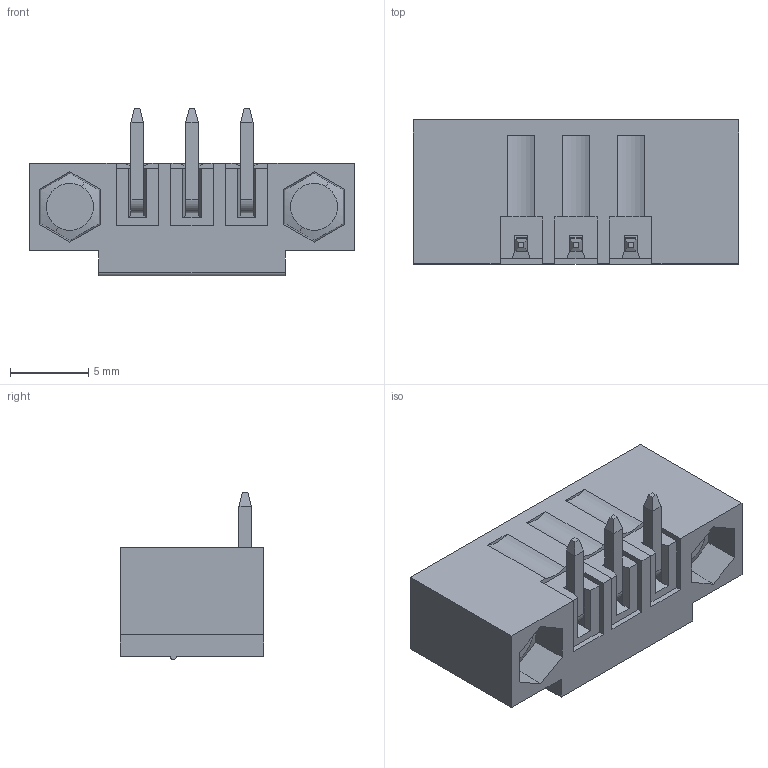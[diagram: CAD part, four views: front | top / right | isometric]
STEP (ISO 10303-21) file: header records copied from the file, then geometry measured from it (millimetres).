
FILE_DESCRIPTION((''),'2;1');
FILE_NAME('OQ0315510000G_ASM','2017-04-17T',('shqun'),(''),'CREO PARAMETRIC BY PTC INC, 2014500','CREO PARAMETRIC BY PTC INC, 2014500','');
FILE_SCHEMA(('CONFIG_CONTROL_DESIGN'));
Length unit declared in the file: millimetre
Products named in the file (1): OQ0315510000G_ASM
Bounding box: 20.8 x 9.2 x 10.7 mm (x, y, z)
Volume: 746.4 mm3; surface area: 1690.1 mm2
Topology: 1 solids, 25 shells, 456 faces, 1131 edges, 736 vertices
Faces by surface type: plane 344, cylinder 68, cone 26, bspline 12, torus 6
Entity records: 17649 total; most frequent: CARTESIAN_POINT 7039, ORIENTED_EDGE 2254, DIRECTION 1983, EDGE_CURVE 1127, VECTOR 887, LINE 887, VERTEX_POINT 736, AXIS2_PLACEMENT_3D 548
